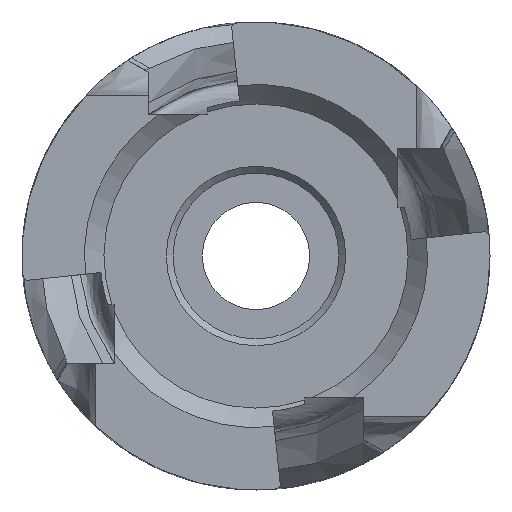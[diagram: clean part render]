
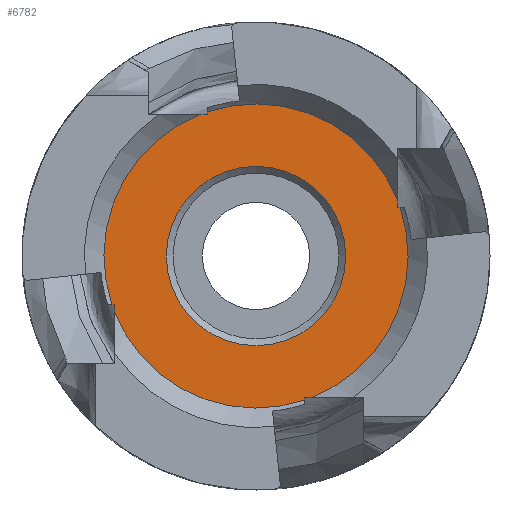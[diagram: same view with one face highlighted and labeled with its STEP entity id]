
A CAD part, front view. The second image highlights one B-rep face of the part: STEP entity #6782.
In plain terms, the highlighted planar face has unit normal (0, -1, 0).
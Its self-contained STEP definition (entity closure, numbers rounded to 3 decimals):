
#191=PLANE('',#7250);
#467=FACE_BOUND('',#1178,.T.);
#760=FACE_OUTER_BOUND('',#1177,.T.);
#1177=EDGE_LOOP('',(#4761,#4762,#4763,#4764,#4765,#4766,#4767,#4768,#4769,
#4770,#4771,#4772));
#1178=EDGE_LOOP('',(#4773));
#1646=CIRCLE('',#7249,9.2);
#1647=CIRCLE('',#7251,15.6);
#1648=CIRCLE('',#7252,15.6);
#1649=CIRCLE('',#7253,15.6);
#1650=CIRCLE('',#7254,15.6);
#1856=LINE('',#10711,#2374);
#1857=LINE('',#10715,#2375);
#1858=LINE('',#10717,#2376);
#1859=LINE('',#10721,#2377);
#1860=LINE('',#10723,#2378);
#1861=LINE('',#10727,#2379);
#1862=LINE('',#10729,#2380);
#1863=LINE('',#10732,#2381);
#2374=VECTOR('',#7890,10.);
#2375=VECTOR('',#7893,10.);
#2376=VECTOR('',#7894,10.);
#2377=VECTOR('',#7897,10.);
#2378=VECTOR('',#7898,10.);
#2379=VECTOR('',#7901,10.);
#2380=VECTOR('',#7902,10.);
#2381=VECTOR('',#7905,10.);
#3008=VERTEX_POINT('',#10705);
#3009=VERTEX_POINT('',#10709);
#3010=VERTEX_POINT('',#10710);
#3011=VERTEX_POINT('',#10712);
#3012=VERTEX_POINT('',#10714);
#3013=VERTEX_POINT('',#10716);
#3014=VERTEX_POINT('',#10718);
#3015=VERTEX_POINT('',#10720);
#3016=VERTEX_POINT('',#10722);
#3017=VERTEX_POINT('',#10724);
#3018=VERTEX_POINT('',#10726);
#3019=VERTEX_POINT('',#10728);
#3020=VERTEX_POINT('',#10730);
#3685=EDGE_CURVE('',#3008,#3008,#1646,.T.);
#3686=EDGE_CURVE('',#3009,#3010,#1856,.T.);
#3687=EDGE_CURVE('',#3011,#3009,#1647,.T.);
#3688=EDGE_CURVE('',#3012,#3011,#1857,.T.);
#3689=EDGE_CURVE('',#3013,#3012,#1858,.T.);
#3690=EDGE_CURVE('',#3014,#3013,#1648,.T.);
#3691=EDGE_CURVE('',#3015,#3014,#1859,.T.);
#3692=EDGE_CURVE('',#3016,#3015,#1860,.T.);
#3693=EDGE_CURVE('',#3017,#3016,#1649,.T.);
#3694=EDGE_CURVE('',#3018,#3017,#1861,.T.);
#3695=EDGE_CURVE('',#3019,#3018,#1862,.T.);
#3696=EDGE_CURVE('',#3020,#3019,#1650,.T.);
#3697=EDGE_CURVE('',#3010,#3020,#1863,.T.);
#4761=ORIENTED_EDGE('',*,*,#3686,.F.);
#4762=ORIENTED_EDGE('',*,*,#3687,.F.);
#4763=ORIENTED_EDGE('',*,*,#3688,.F.);
#4764=ORIENTED_EDGE('',*,*,#3689,.F.);
#4765=ORIENTED_EDGE('',*,*,#3690,.F.);
#4766=ORIENTED_EDGE('',*,*,#3691,.F.);
#4767=ORIENTED_EDGE('',*,*,#3692,.F.);
#4768=ORIENTED_EDGE('',*,*,#3693,.F.);
#4769=ORIENTED_EDGE('',*,*,#3694,.F.);
#4770=ORIENTED_EDGE('',*,*,#3695,.F.);
#4771=ORIENTED_EDGE('',*,*,#3696,.F.);
#4772=ORIENTED_EDGE('',*,*,#3697,.F.);
#4773=ORIENTED_EDGE('',*,*,#3685,.F.);
#6782=ADVANCED_FACE('',(#760,#467),#191,.T.);
#7249=AXIS2_PLACEMENT_3D('',#10707,#7886,#7887);
#7250=AXIS2_PLACEMENT_3D('',#10708,#7888,#7889);
#7251=AXIS2_PLACEMENT_3D('',#10713,#7891,#7892);
#7252=AXIS2_PLACEMENT_3D('',#10719,#7895,#7896);
#7253=AXIS2_PLACEMENT_3D('',#10725,#7899,#7900);
#7254=AXIS2_PLACEMENT_3D('',#10731,#7903,#7904);
#7886=DIRECTION('center_axis',(0.,-1.,0.));
#7887=DIRECTION('ref_axis',(-1.,0.,0.));
#7888=DIRECTION('center_axis',(0.,-1.,0.));
#7889=DIRECTION('ref_axis',(0.,0.,-1.));
#7890=DIRECTION('',(-1.,0.,0.));
#7891=DIRECTION('center_axis',(0.,1.,0.));
#7892=DIRECTION('ref_axis',(1.,0.,0.));
#7893=DIRECTION('',(1.,0.,0.));
#7894=DIRECTION('',(0.,0.,-1.));
#7895=DIRECTION('center_axis',(0.,1.,0.));
#7896=DIRECTION('ref_axis',(1.,0.,0.));
#7897=DIRECTION('',(0.,0.,1.));
#7898=DIRECTION('',(1.,0.,0.));
#7899=DIRECTION('center_axis',(0.,1.,0.));
#7900=DIRECTION('ref_axis',(1.,0.,0.));
#7901=DIRECTION('',(-1.,0.,0.));
#7902=DIRECTION('',(0.,0.,1.));
#7903=DIRECTION('center_axis',(0.,1.,0.));
#7904=DIRECTION('ref_axis',(1.,0.,0.));
#7905=DIRECTION('',(0.,0.,-1.));
#10705=CARTESIAN_POINT('',(9.2,2.1,0.));
#10707=CARTESIAN_POINT('Origin',(0.,2.1,0.));
#10708=CARTESIAN_POINT('Origin',(0.,2.1,0.));
#10709=CARTESIAN_POINT('',(5.754,2.1,-14.5));
#10710=CARTESIAN_POINT('',(5.,2.1,-14.5));
#10711=CARTESIAN_POINT('',(5.5,2.1,-14.5));
#10712=CARTESIAN_POINT('',(14.777,2.1,5.));
#10713=CARTESIAN_POINT('Origin',(0.,2.1,0.));
#10714=CARTESIAN_POINT('',(14.5,2.1,5.));
#10715=CARTESIAN_POINT('',(7.25,2.1,5.));
#10716=CARTESIAN_POINT('',(14.5,2.1,5.754));
#10717=CARTESIAN_POINT('',(14.5,2.1,5.5));
#10718=CARTESIAN_POINT('',(-5.,2.1,14.777));
#10719=CARTESIAN_POINT('Origin',(0.,2.1,0.));
#10720=CARTESIAN_POINT('',(-5.,2.1,14.5));
#10721=CARTESIAN_POINT('',(-5.,2.1,7.25));
#10722=CARTESIAN_POINT('',(-5.754,2.1,14.5));
#10723=CARTESIAN_POINT('',(-5.5,2.1,14.5));
#10724=CARTESIAN_POINT('',(-14.777,2.1,-5.));
#10725=CARTESIAN_POINT('Origin',(0.,2.1,0.));
#10726=CARTESIAN_POINT('',(-14.5,2.1,-5.));
#10727=CARTESIAN_POINT('',(-7.25,2.1,-5.));
#10728=CARTESIAN_POINT('',(-14.5,2.1,-5.754));
#10729=CARTESIAN_POINT('',(-14.5,2.1,-5.5));
#10730=CARTESIAN_POINT('',(5.,2.1,-14.777));
#10731=CARTESIAN_POINT('Origin',(0.,2.1,0.));
#10732=CARTESIAN_POINT('',(5.,2.1,-7.25));
